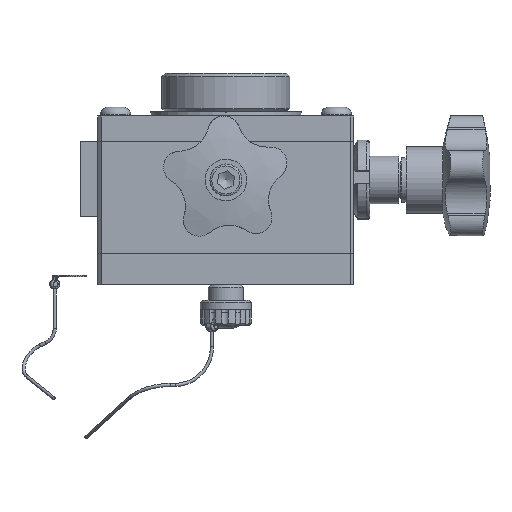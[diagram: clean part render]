
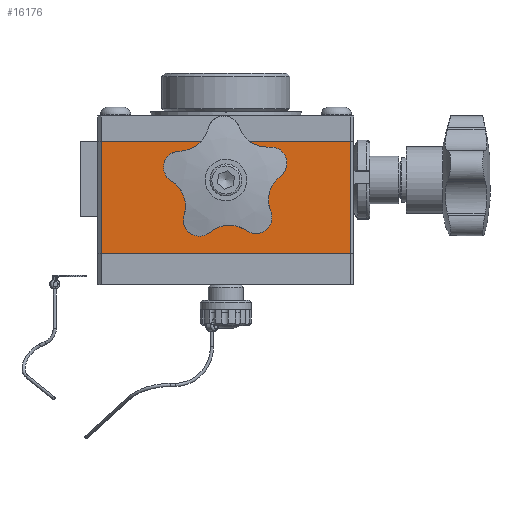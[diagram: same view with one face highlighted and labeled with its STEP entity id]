
A CAD part, left-side view. The second image highlights one B-rep face of the part: STEP entity #16176.
In plain terms, the highlighted planar face has unit normal (-1, 0, 0) as drawn and (0, 0, 1) by its records, which use the part's own axes.
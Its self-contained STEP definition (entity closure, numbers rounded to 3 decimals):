
#1062=FACE_BOUND('',#2811,.T.);
#1249=PLANE('',#17830);
#1862=FACE_OUTER_BOUND('',#2810,.T.);
#2810=EDGE_LOOP('',(#11602,#11603,#11604,#11605));
#2811=EDGE_LOOP('',(#11606));
#3910=LINE('',#24161,#5357);
#3923=LINE('',#24191,#5370);
#3924=LINE('',#24194,#5371);
#3925=LINE('',#24195,#5372);
#5357=VECTOR('',#19602,10.);
#5370=VECTOR('',#19629,10.);
#5371=VECTOR('',#19632,10.);
#5372=VECTOR('',#19633,10.);
#6814=CIRCLE('',#17831,6.959);
#7470=VERTEX_POINT('',#24158);
#7471=VERTEX_POINT('',#24160);
#7481=VERTEX_POINT('',#24189);
#7482=VERTEX_POINT('',#24193);
#7483=VERTEX_POINT('',#24196);
#9110=EDGE_CURVE('',#7471,#7470,#3910,.T.);
#9128=EDGE_CURVE('',#7481,#7470,#3923,.T.);
#9129=EDGE_CURVE('',#7481,#7482,#3924,.T.);
#9130=EDGE_CURVE('',#7471,#7482,#3925,.T.);
#9131=EDGE_CURVE('',#7483,#7483,#6814,.T.);
#11602=ORIENTED_EDGE('',*,*,#9128,.F.);
#11603=ORIENTED_EDGE('',*,*,#9129,.T.);
#11604=ORIENTED_EDGE('',*,*,#9130,.F.);
#11605=ORIENTED_EDGE('',*,*,#9110,.T.);
#11606=ORIENTED_EDGE('',*,*,#9131,.T.);
#16176=ADVANCED_FACE('',(#1862,#1062),#1249,.T.);
#17830=AXIS2_PLACEMENT_3D('',#24192,#19630,#19631);
#17831=AXIS2_PLACEMENT_3D('',#24197,#19634,#19635);
#19602=DIRECTION('',(-1.,0.,0.));
#19629=DIRECTION('',(0.,1.,0.));
#19630=DIRECTION('center_axis',(0.,0.,
1.));
#19631=DIRECTION('ref_axis',(1.,0.,0.));
#19632=DIRECTION('',(1.,0.,0.));
#19633=DIRECTION('',(0.,-1.,0.));
#19634=DIRECTION('center_axis',(0.,0.,
-1.));
#19635=DIRECTION('ref_axis',(-1.,0.,0.));
#24158=CARTESIAN_POINT('',(-39.,17.5,90.));
#24160=CARTESIAN_POINT('',(39.,17.5,90.));
#24161=CARTESIAN_POINT('',(-40.,17.5,90.));
#24189=CARTESIAN_POINT('',(-39.,-17.5,90.));
#24191=CARTESIAN_POINT('',(-39.,8.75,90.));
#24192=CARTESIAN_POINT('Origin',(0.,0.,
90.));
#24193=CARTESIAN_POINT('',(39.,-17.5,90.));
#24194=CARTESIAN_POINT('',(40.,-17.5,90.));
#24195=CARTESIAN_POINT('',(39.,-8.75,90.));
#24196=CARTESIAN_POINT('',(6.959,5.5,90.));
#24197=CARTESIAN_POINT('Origin',(0.,5.5,
90.));
